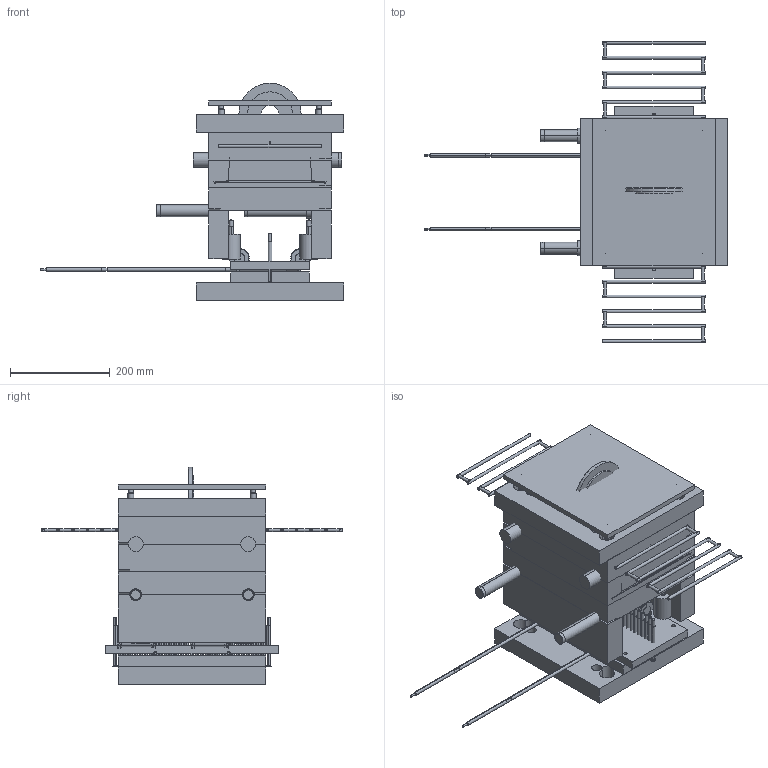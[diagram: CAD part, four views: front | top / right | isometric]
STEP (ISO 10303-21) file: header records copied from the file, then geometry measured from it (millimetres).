
FILE_DESCRIPTION(('Open CASCADE Model'),'2;1');
FILE_NAME('Open CASCADE Shape Model','2026-07-10T07:31:55',('Author'),( 'Open CASCADE'),'Open CASCADE STEP processor 7.8','Open CASCADE 7.8' ,'Unknown');
FILE_SCHEMA(('AUTOMOTIVE_DESIGN { 1 0 10303 214 1 1 1 1 }'));
Length unit declared in the file: millimetre
Products named in the file (123): mold_builder_assembly; Fixed_Half; cavity_plate; clamp_fixed; guide_pin_0; guide_pin_1; guide_pin_2; guide_pin_3; guide_bushing_0; guide_bushing_1; guide_bushing_2; guide_bushing_3; screw_top_0; screw_top_1; screw_top_2; screw_top_3; dowel_pin_0; dowel_pin_1; insulation_plate; sprue_bushing; locating_ring; gate_0; slide_1_K2528; Moving_Half; clamp_moving; support_plate; core_plate; spacer_block; support_pillar_0; support_pillar_1; support_pillar_2; support_pillar_3; screw_bot_0; screw_bot_1; screw_bot_2; screw_bot_3; cooling_channel_0; cooling_channel_1; cooling_channel_2; cooling_channel_3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
Assembly tree (122 placements, depth 3):
  mold_builder_assembly
    Fixed_Half
      cavity_plate
      clamp_fixed
      guide_pin_0
      guide_pin_1
      guide_pin_2
      guide_pin_3
      guide_bushing_0
      guide_bushing_1
      guide_bushing_2
      guide_bushing_3
      screw_top_0
      screw_top_1
      screw_top_2
      screw_top_3
      dowel_pin_0
      dowel_pin_1
      insulation_plate
      sprue_bushing
      locating_ring
      gate_0
      slide_1_K2528
    Moving_Half
      clamp_moving
      support_plate
      core_plate
      spacer_block
      support_pillar_0
      support_pillar_1
      support_pillar_2
      support_pillar_3
      screw_bot_0
      screw_bot_1
      screw_bot_2
      screw_bot_3
      cooling_channel_0
      cooling_channel_1
      cooling_channel_2
      cooling_channel_3
      cooling_channel_4
      cooling_channel_5
      cooling_channel_6
      cooling_channel_7
      cooling_channel_8
      cooling_channel_9
      cooling_channel_10
      cooling_channel_11
      cooling_channel_12
      cooling_channel_13
      cooling_channel_14
      cooling_channel_15
      cooling_channel_16
      cooling_channel_17
      cooling_channel_18
      cooling_channel_19
      cooling_channel_20
      cooling_uturn_0
      cooling_uturn_1
      cooling_uturn_2
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Bounding box: 609.5 x 606 x 437.5 mm (x, y, z)
Volume: 23891470 mm3; surface area: 2832465.4 mm2
Topology: 218 solids, 218 shells, 2244 faces, 4479 edges, 2762 vertices
Faces by surface type: plane 897, cylinder 883, cone 377, bspline 44, torus 31, sphere 12
Full cylindrical faces by diameter (mm): 3.063 x13, 4 x5, 5.628 x2, 6 x41, 6.8 x4, 8.04 x2, 8.169 x1, 9.728 x2, 10.2 x16, 10.211 x1, 11.4 x2, 11.98 x8, 12 x18, 13.5 x8, 14 x12, 15 x2, 16 x2, 16.6 x4, 18 x8, 20 x16, 20.1 x12, 28 x2, 90 x1, 125 x1
Entity records: 136014 total; most frequent: CARTESIAN_POINT 41019, DIRECTION 18619, ORIENTED_EDGE 8856, PCURVE 8856, DEFINITIONAL_REPRESENTATION 8856, LINE 8589, VECTOR 8589, AXIS2_PLACEMENT_3D 4585
